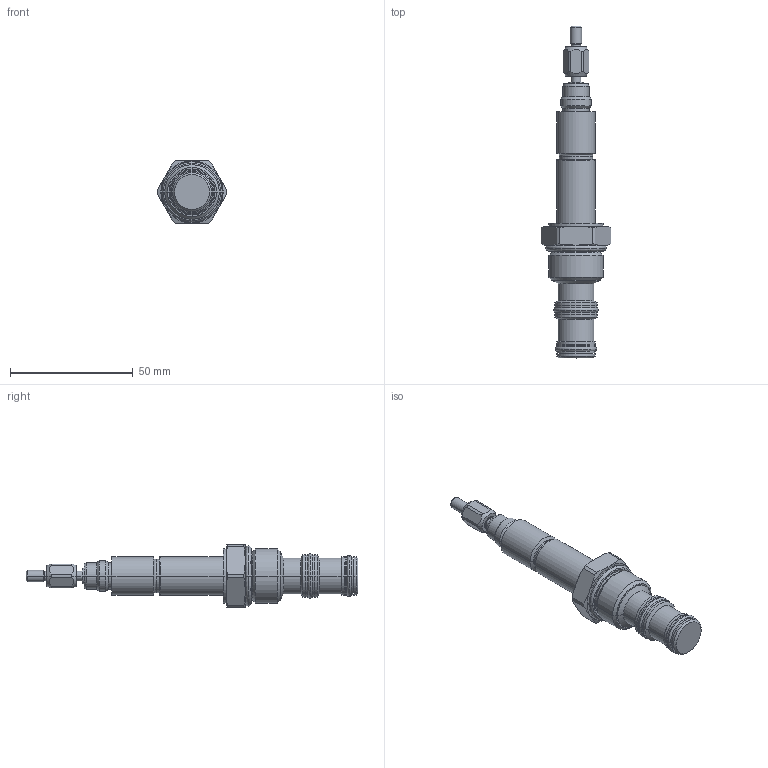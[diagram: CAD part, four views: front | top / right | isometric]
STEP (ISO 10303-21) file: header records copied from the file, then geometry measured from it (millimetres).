
FILE_DESCRIPTION((''),'2;1');
FILE_NAME('PRT0007','2009-03-02T',('JCS'),(''),'PRO/ENGINEER BY PARAMETRIC TECHNOLOGY CORPORATION, 2008010','PRO/ENGINEER BY PARAMETRIC TECHNOLOGY CORPORATION, 2008010','');
FILE_SCHEMA(('CONFIG_CONTROL_DESIGN'));
Length unit declared in the file: inch
Products named in the file (1): PRT0007
Bounding box: 28.57 x 135.5 x 25.4 mm (x, y, z)
Volume: 27375.4 mm3; surface area: 9934.1 mm2
Topology: 4 solids, 4 shells, 222 faces, 474 edges, 278 vertices
Faces by surface type: cylinder 76, cone 62, plane 38, revolution 28, torus 18
Entity records: 6668 total; most frequent: CARTESIAN_POINT 1752, DIRECTION 1092, ORIENTED_EDGE 948, EDGE_CURVE 474, AXIS2_PLACEMENT_3D 460, VERTEX_POINT 278, CIRCLE 266, EDGE_LOOP 246
